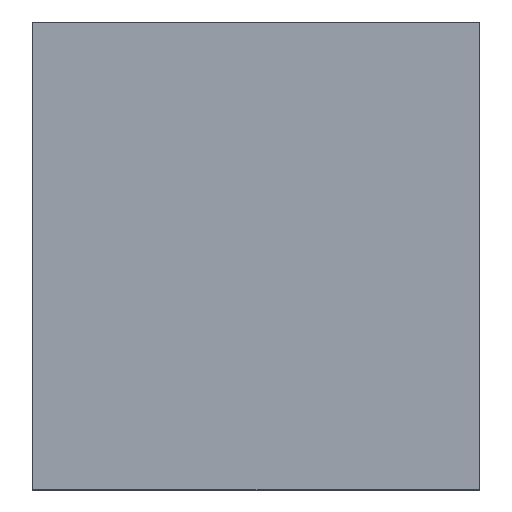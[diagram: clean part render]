
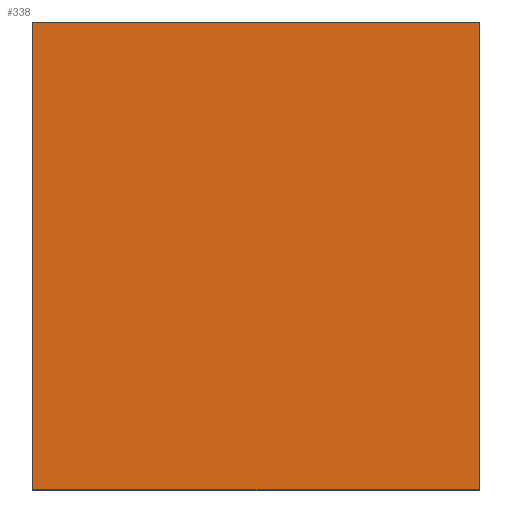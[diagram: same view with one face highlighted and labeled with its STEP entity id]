
A CAD part, top view. The second image highlights one B-rep face of the part: STEP entity #338.
In plain terms, the highlighted planar face has unit normal (0, 0, 1).
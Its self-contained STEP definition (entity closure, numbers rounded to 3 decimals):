
#24 = VERTEX_POINT('',#25);
#25 = CARTESIAN_POINT('',(-635.,-15.,183.));
#32 = PLANE('',#33);
#33 = AXIS2_PLACEMENT_3D('',#34,#35,#36);
#34 = CARTESIAN_POINT('',(-635.,-15.,175.));
#35 = DIRECTION('',(1.,0.,-0.));
#36 = DIRECTION('',(0.,0.,1.));
#44 = PLANE('',#45);
#45 = AXIS2_PLACEMENT_3D('',#46,#47,#48);
#46 = CARTESIAN_POINT('',(-635.,-15.,175.));
#47 = DIRECTION('',(-0.,1.,0.));
#48 = DIRECTION('',(0.,0.,1.));
#85 = VERTEX_POINT('',#86);
#86 = CARTESIAN_POINT('',(-635.,310.,183.));
#100 = PLANE('',#101);
#101 = AXIS2_PLACEMENT_3D('',#102,#103,#104);
#102 = CARTESIAN_POINT('',(-635.,310.,175.));
#103 = DIRECTION('',(-0.,1.,0.));
#104 = DIRECTION('',(0.,0.,1.));
#112 = EDGE_CURVE('',#24,#85,#113,.T.);
#113 = SURFACE_CURVE('',#114,(#118,#125),.PCURVE_S1.);
#114 = LINE('',#115,#116);
#115 = CARTESIAN_POINT('',(-635.,-15.,183.));
#116 = VECTOR('',#117,1.);
#117 = DIRECTION('',(-0.,1.,0.));
#118 = PCURVE('',#32,#119);
#119 = DEFINITIONAL_REPRESENTATION('',(#120),#124);
#120 = LINE('',#121,#122);
#121 = CARTESIAN_POINT('',(8.,0.));
#122 = VECTOR('',#123,1.);
#123 = DIRECTION('',(0.,-1.));
#124 = ( GEOMETRIC_REPRESENTATION_CONTEXT(2) 
PARAMETRIC_REPRESENTATION_CONTEXT() REPRESENTATION_CONTEXT('2D SPACE',''
  ) );
#125 = PCURVE('',#126,#131);
#126 = PLANE('',#127);
#127 = AXIS2_PLACEMENT_3D('',#128,#129,#130);
#128 = CARTESIAN_POINT('',(-635.,-15.,183.));
#129 = DIRECTION('',(0.,0.,1.));
#130 = DIRECTION('',(1.,0.,-0.));
#131 = DEFINITIONAL_REPRESENTATION('',(#132),#136);
#132 = LINE('',#133,#134);
#133 = CARTESIAN_POINT('',(0.,0.));
#134 = VECTOR('',#135,1.);
#135 = DIRECTION('',(0.,1.));
#136 = ( GEOMETRIC_REPRESENTATION_CONTEXT(2) 
PARAMETRIC_REPRESENTATION_CONTEXT() REPRESENTATION_CONTEXT('2D SPACE',''
  ) );
#144 = VERTEX_POINT('',#145);
#145 = CARTESIAN_POINT('',(-325.,-15.,183.));
#152 = PLANE('',#153);
#153 = AXIS2_PLACEMENT_3D('',#154,#155,#156);
#154 = CARTESIAN_POINT('',(-325.,-15.,175.));
#155 = DIRECTION('',(1.,0.,-0.));
#156 = DIRECTION('',(0.,0.,1.));
#195 = VERTEX_POINT('',#196);
#196 = CARTESIAN_POINT('',(-325.,310.,183.));
#217 = EDGE_CURVE('',#144,#195,#218,.T.);
#218 = SURFACE_CURVE('',#219,(#223,#230),.PCURVE_S1.);
#219 = LINE('',#220,#221);
#220 = CARTESIAN_POINT('',(-325.,-15.,183.));
#221 = VECTOR('',#222,1.);
#222 = DIRECTION('',(-0.,1.,0.));
#223 = PCURVE('',#152,#224);
#224 = DEFINITIONAL_REPRESENTATION('',(#225),#229);
#225 = LINE('',#226,#227);
#226 = CARTESIAN_POINT('',(8.,0.));
#227 = VECTOR('',#228,1.);
#228 = DIRECTION('',(0.,-1.));
#229 = ( GEOMETRIC_REPRESENTATION_CONTEXT(2) 
PARAMETRIC_REPRESENTATION_CONTEXT() REPRESENTATION_CONTEXT('2D SPACE',''
  ) );
#230 = PCURVE('',#126,#231);
#231 = DEFINITIONAL_REPRESENTATION('',(#232),#236);
#232 = LINE('',#233,#234);
#233 = CARTESIAN_POINT('',(310.,0.));
#234 = VECTOR('',#235,1.);
#235 = DIRECTION('',(0.,1.));
#236 = ( GEOMETRIC_REPRESENTATION_CONTEXT(2) 
PARAMETRIC_REPRESENTATION_CONTEXT() REPRESENTATION_CONTEXT('2D SPACE',''
  ) );
#263 = EDGE_CURVE('',#24,#144,#264,.T.);
#264 = SURFACE_CURVE('',#265,(#269,#276),.PCURVE_S1.);
#265 = LINE('',#266,#267);
#266 = CARTESIAN_POINT('',(-635.,-15.,183.));
#267 = VECTOR('',#268,1.);
#268 = DIRECTION('',(1.,0.,-0.));
#269 = PCURVE('',#44,#270);
#270 = DEFINITIONAL_REPRESENTATION('',(#271),#275);
#271 = LINE('',#272,#273);
#272 = CARTESIAN_POINT('',(8.,0.));
#273 = VECTOR('',#274,1.);
#274 = DIRECTION('',(0.,1.));
#275 = ( GEOMETRIC_REPRESENTATION_CONTEXT(2) 
PARAMETRIC_REPRESENTATION_CONTEXT() REPRESENTATION_CONTEXT('2D SPACE',''
  ) );
#276 = PCURVE('',#126,#277);
#277 = DEFINITIONAL_REPRESENTATION('',(#278),#282);
#278 = LINE('',#279,#280);
#279 = CARTESIAN_POINT('',(0.,0.));
#280 = VECTOR('',#281,1.);
#281 = DIRECTION('',(1.,0.));
#282 = ( GEOMETRIC_REPRESENTATION_CONTEXT(2) 
PARAMETRIC_REPRESENTATION_CONTEXT() REPRESENTATION_CONTEXT('2D SPACE',''
  ) );
#310 = EDGE_CURVE('',#85,#195,#311,.T.);
#311 = SURFACE_CURVE('',#312,(#316,#323),.PCURVE_S1.);
#312 = LINE('',#313,#314);
#313 = CARTESIAN_POINT('',(-635.,310.,183.));
#314 = VECTOR('',#315,1.);
#315 = DIRECTION('',(1.,0.,-0.));
#316 = PCURVE('',#100,#317);
#317 = DEFINITIONAL_REPRESENTATION('',(#318),#322);
#318 = LINE('',#319,#320);
#319 = CARTESIAN_POINT('',(8.,0.));
#320 = VECTOR('',#321,1.);
#321 = DIRECTION('',(0.,1.));
#322 = ( GEOMETRIC_REPRESENTATION_CONTEXT(2) 
PARAMETRIC_REPRESENTATION_CONTEXT() REPRESENTATION_CONTEXT('2D SPACE',''
  ) );
#323 = PCURVE('',#126,#324);
#324 = DEFINITIONAL_REPRESENTATION('',(#325),#329);
#325 = LINE('',#326,#327);
#326 = CARTESIAN_POINT('',(0.,325.));
#327 = VECTOR('',#328,1.);
#328 = DIRECTION('',(1.,0.));
#329 = ( GEOMETRIC_REPRESENTATION_CONTEXT(2) 
PARAMETRIC_REPRESENTATION_CONTEXT() REPRESENTATION_CONTEXT('2D SPACE',''
  ) );
#338 = ADVANCED_FACE('',(#339),#126,.T.);
#339 = FACE_BOUND('',#340,.T.);
#340 = EDGE_LOOP('',(#341,#342,#343,#344));
#341 = ORIENTED_EDGE('',*,*,#112,.F.);
#342 = ORIENTED_EDGE('',*,*,#263,.T.);
#343 = ORIENTED_EDGE('',*,*,#217,.T.);
#344 = ORIENTED_EDGE('',*,*,#310,.F.);
